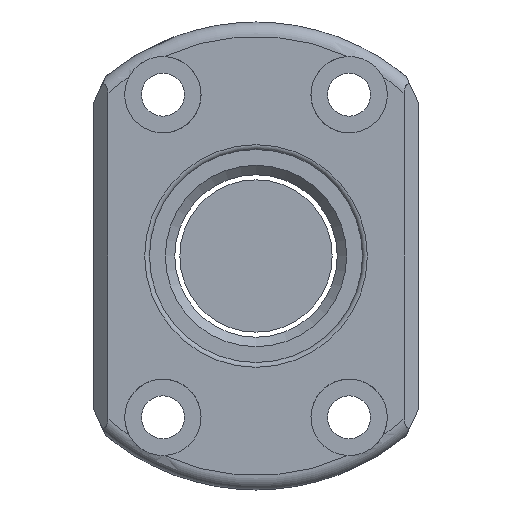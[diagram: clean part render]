
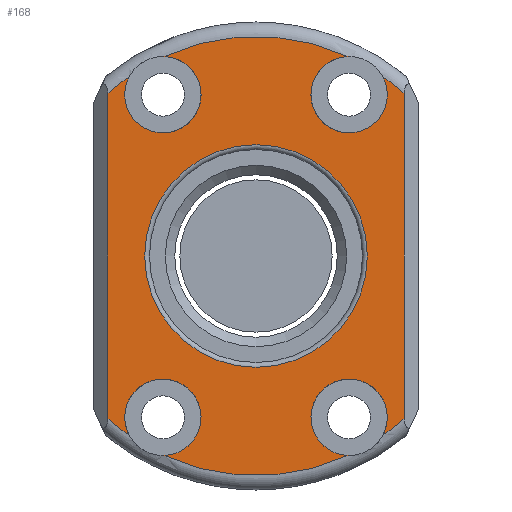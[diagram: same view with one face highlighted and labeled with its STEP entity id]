
A CAD part, front view. The second image highlights one B-rep face of the part: STEP entity #168.
In plain terms, the highlighted planar face has unit normal (0, -1, 0).
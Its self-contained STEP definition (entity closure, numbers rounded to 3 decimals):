
#58=LINE('',#1116,#82);
#59=LINE('',#1128,#83);
#82=VECTOR('',#900,1.);
#83=VECTOR('',#911,1.);
#128=PLANE('',#794);
#168=ADVANCED_FACE('',(#236,#237),#128,.T.);
#236=FACE_BOUND('',#304,.T.);
#237=FACE_BOUND('',#305,.T.);
#304=EDGE_LOOP('',(#391));
#305=EDGE_LOOP('',(#392,#393,#394,#395,#396,#397,#398,#399,#400,#401,#402,
#403));
#391=ORIENTED_EDGE('',*,*,#642,.T.);
#392=ORIENTED_EDGE('',*,*,#643,.T.);
#393=ORIENTED_EDGE('',*,*,#644,.T.);
#394=ORIENTED_EDGE('',*,*,#645,.T.);
#395=ORIENTED_EDGE('',*,*,#646,.F.);
#396=ORIENTED_EDGE('',*,*,#647,.T.);
#397=ORIENTED_EDGE('',*,*,#648,.T.);
#398=ORIENTED_EDGE('',*,*,#649,.T.);
#399=ORIENTED_EDGE('',*,*,#650,.T.);
#400=ORIENTED_EDGE('',*,*,#651,.T.);
#401=ORIENTED_EDGE('',*,*,#652,.F.);
#402=ORIENTED_EDGE('',*,*,#653,.T.);
#403=ORIENTED_EDGE('',*,*,#654,.T.);
#571=VERTEX_POINT('',#1112);
#572=VERTEX_POINT('',#1114);
#573=VERTEX_POINT('',#1115);
#574=VERTEX_POINT('',#1117);
#575=VERTEX_POINT('',#1119);
#576=VERTEX_POINT('',#1121);
#577=VERTEX_POINT('',#1123);
#578=VERTEX_POINT('',#1125);
#579=VERTEX_POINT('',#1127);
#580=VERTEX_POINT('',#1129);
#581=VERTEX_POINT('',#1131);
#582=VERTEX_POINT('',#1133);
#583=VERTEX_POINT('',#1135);
#642=EDGE_CURVE('',#571,#571,#731,.T.);
#643=EDGE_CURVE('',#572,#573,#732,.T.);
#644=EDGE_CURVE('',#573,#574,#58,.T.);
#645=EDGE_CURVE('',#574,#575,#733,.T.);
#646=EDGE_CURVE('',#576,#575,#734,.T.);
#647=EDGE_CURVE('',#576,#577,#735,.T.);
#648=EDGE_CURVE('',#577,#578,#736,.T.);
#649=EDGE_CURVE('',#578,#579,#737,.T.);
#650=EDGE_CURVE('',#579,#580,#59,.T.);
#651=EDGE_CURVE('',#580,#581,#738,.T.);
#652=EDGE_CURVE('',#582,#581,#739,.T.);
#653=EDGE_CURVE('',#582,#583,#740,.T.);
#654=EDGE_CURVE('',#583,#572,#741,.T.);
#731=CIRCLE('',#783,11.65);
#732=CIRCLE('',#784,23.);
#733=CIRCLE('',#785,23.);
#734=CIRCLE('',#786,4.);
#735=CIRCLE('',#787,23.);
#736=CIRCLE('',#788,4.);
#737=CIRCLE('',#789,23.);
#738=CIRCLE('',#790,23.);
#739=CIRCLE('',#791,4.);
#740=CIRCLE('',#792,23.);
#741=CIRCLE('',#793,4.);
#783=AXIS2_PLACEMENT_3D('',#1111,#896,#897);
#784=AXIS2_PLACEMENT_3D('',#1113,#898,#899);
#785=AXIS2_PLACEMENT_3D('',#1118,#901,#902);
#786=AXIS2_PLACEMENT_3D('',#1120,#903,#904);
#787=AXIS2_PLACEMENT_3D('',#1122,#905,#906);
#788=AXIS2_PLACEMENT_3D('',#1124,#907,#908);
#789=AXIS2_PLACEMENT_3D('',#1126,#909,#910);
#790=AXIS2_PLACEMENT_3D('',#1130,#912,#913);
#791=AXIS2_PLACEMENT_3D('',#1132,#914,#915);
#792=AXIS2_PLACEMENT_3D('',#1134,#916,#917);
#793=AXIS2_PLACEMENT_3D('',#1136,#918,#919);
#794=AXIS2_PLACEMENT_3D('',#1137,#920,#921);
#896=DIRECTION('',(0.,1.,0.));
#897=DIRECTION('',(0.,0.,-1.));
#898=DIRECTION('',(0.,-1.,0.));
#899=DIRECTION('',(0.,0.,-1.));
#900=DIRECTION('',(0.,0.,-1.));
#901=DIRECTION('',(0.,-1.,0.));
#902=DIRECTION('',(0.,0.,-1.));
#903=DIRECTION('',(0.,-1.,0.));
#904=DIRECTION('',(-1.,0.,0.));
#905=DIRECTION('',(0.,-1.,0.));
#906=DIRECTION('',(0.,0.,-1.));
#907=DIRECTION('',(0.,1.,0.));
#908=DIRECTION('',(1.,0.,0.));
#909=DIRECTION('',(0.,-1.,0.));
#910=DIRECTION('',(0.,0.,-1.));
#911=DIRECTION('',(0.,0.,1.));
#912=DIRECTION('',(0.,-1.,0.));
#913=DIRECTION('',(0.,0.,-1.));
#914=DIRECTION('',(0.,-1.,0.));
#915=DIRECTION('',(1.,0.,0.));
#916=DIRECTION('',(0.,-1.,0.));
#917=DIRECTION('',(0.,0.,-1.));
#918=DIRECTION('',(0.,1.,0.));
#919=DIRECTION('',(-1.,0.,0.));
#920=DIRECTION('',(0.,-1.,0.));
#921=DIRECTION('',(0.,0.,-1.));
#1111=CARTESIAN_POINT('',(0.,0.,0.));
#1112=CARTESIAN_POINT('',(0.,0.,-11.65));
#1113=CARTESIAN_POINT('',(0.,0.,0.));
#1114=CARTESIAN_POINT('',(-13.271,0.,18.785));
#1115=CARTESIAN_POINT('',(-15.5,0.,16.993));
#1116=CARTESIAN_POINT('',(-15.5,0.,0.));
#1117=CARTESIAN_POINT('',(-15.5,0.,-16.993));
#1118=CARTESIAN_POINT('',(0.,0.,0.));
#1119=CARTESIAN_POINT('',(-13.271,0.,-18.785));
#1120=CARTESIAN_POINT('',(-9.75,0.,-16.887));
#1121=CARTESIAN_POINT('',(-9.632,0.,-20.886));
#1122=CARTESIAN_POINT('',(0.,0.,0.));
#1123=CARTESIAN_POINT('',(9.632,0.,-20.886));
#1124=CARTESIAN_POINT('',(9.75,0.,-16.887));
#1125=CARTESIAN_POINT('',(13.271,0.,-18.785));
#1126=CARTESIAN_POINT('',(0.,0.,0.));
#1127=CARTESIAN_POINT('',(15.5,0.,-16.993));
#1128=CARTESIAN_POINT('',(15.5,0.,15.492));
#1129=CARTESIAN_POINT('',(15.5,0.,16.993));
#1130=CARTESIAN_POINT('',(0.,0.,0.));
#1131=CARTESIAN_POINT('',(13.271,0.,18.785));
#1132=CARTESIAN_POINT('',(9.75,0.,16.887));
#1133=CARTESIAN_POINT('',(9.632,0.,20.886));
#1134=CARTESIAN_POINT('',(0.,0.,0.));
#1135=CARTESIAN_POINT('',(-9.632,0.,20.886));
#1136=CARTESIAN_POINT('',(-9.75,0.,16.887));
#1137=CARTESIAN_POINT('',(0.,0.,0.));
